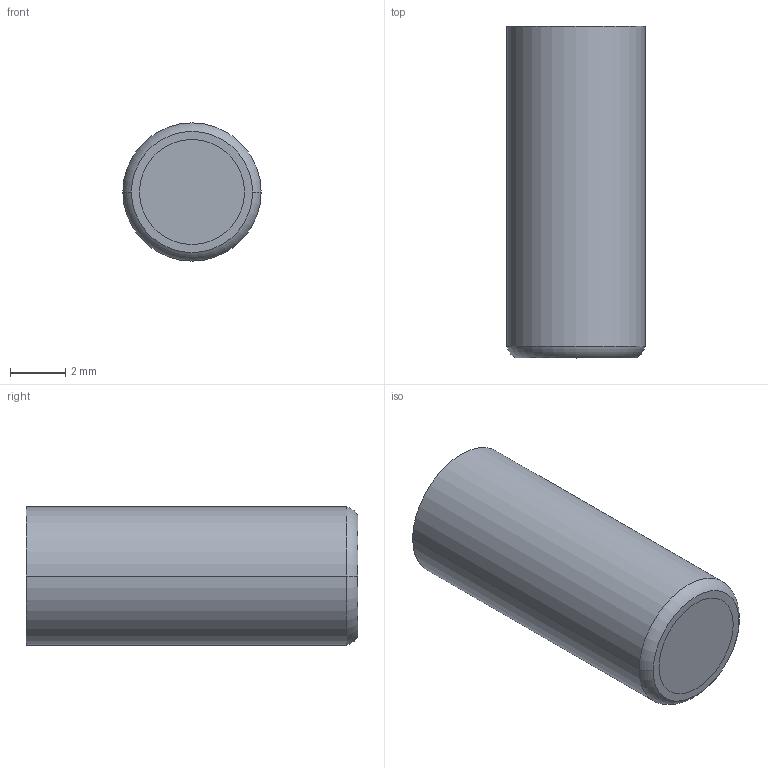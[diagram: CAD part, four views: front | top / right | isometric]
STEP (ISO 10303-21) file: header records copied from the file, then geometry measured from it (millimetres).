
FILE_DESCRIPTION (( 'STEP AP214' ), '1' );
FILE_NAME ('FA 053004-20.STEP', '2013-10-01T08:18:00', ( '' ), ( '' ), 'SwSTEP 2.0', 'SolidWorks 2011', '' );
FILE_SCHEMA (( 'AUTOMOTIVE_DESIGN' ));
Length unit declared in the file: millimetre
Products named in the file (6): FA 053004-20-1; IA 3075SF; FA 053000-2; FA 053000-3; FA 053000-1; FA 053004-20
Assembly tree (5 placements, depth 2):
  FA 053004-20
    FA 053000-3
    FA 053000-2
    FA 053000-1
    IA 3075SF
    FA 053004-20-1
Bounding box: 5 x 12 x 5 mm (x, y, z)
Volume: 204.6 mm3; surface area: 598.8 mm2
Topology: 5 solids, 5 shells, 184 faces, 446 edges, 292 vertices
Faces by surface type: cylinder 88, plane 78, cone 12, bspline 4, torus 2
Entity records: 7752 total; most frequent: CARTESIAN_POINT 2946, DIRECTION 1008, ORIENTED_EDGE 892, EDGE_CURVE 446, AXIS2_PLACEMENT_3D 384, VERTEX_POINT 292, LINE 240, VECTOR 240
